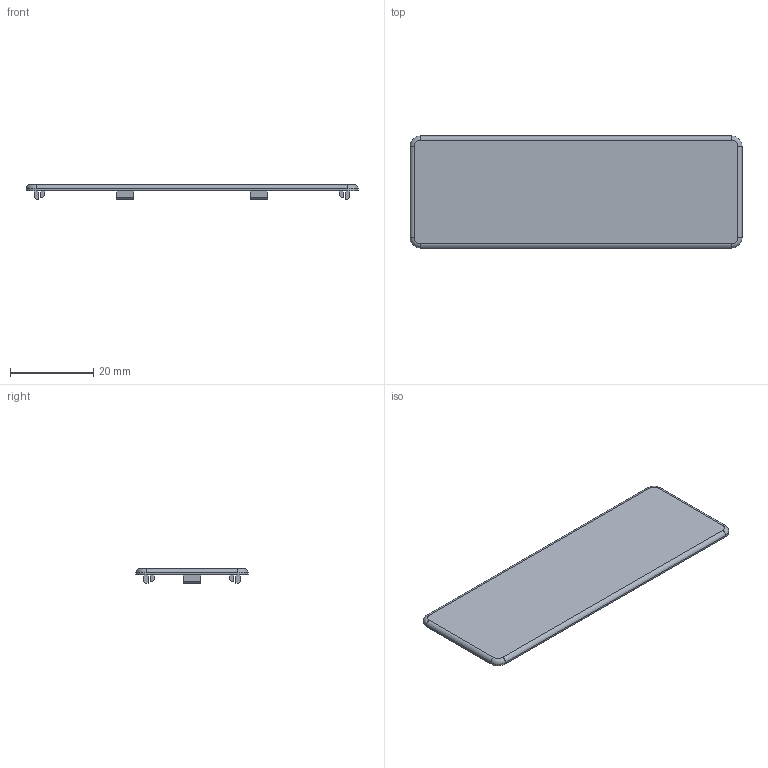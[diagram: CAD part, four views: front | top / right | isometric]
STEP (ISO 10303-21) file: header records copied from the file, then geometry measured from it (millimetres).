
FILE_DESCRIPTION (( 'STEP AP214' ), '1' );
FILE_NAME ('StrongMax krytka pro tisk_363034 a 363036_3D.STEP', '2021-02-09T12:10:43', ( '' ), ( '' ), 'SwSTEP 2.0', 'SolidWorks 2019', '' );
FILE_SCHEMA (( 'AUTOMOTIVE_DESIGN' ));
Length unit declared in the file: millimetre
Products named in the file (1): StrongMax krytka pro tisk_363034 a 363036_3D
Bounding box: 80 x 27 x 3.5 mm (x, y, z)
Volume: 3250.4 mm3; surface area: 4706.5 mm2
Topology: 1 solids, 1 shells, 99 faces, 244 edges, 160 vertices
Faces by surface type: plane 83, cylinder 12, torus 4
Entity records: 2916 total; most frequent: CARTESIAN_POINT 504, ORIENTED_EDGE 488, DIRECTION 472, EDGE_CURVE 244, VECTOR 216, LINE 216, VERTEX_POINT 160, AXIS2_PLACEMENT_3D 128
